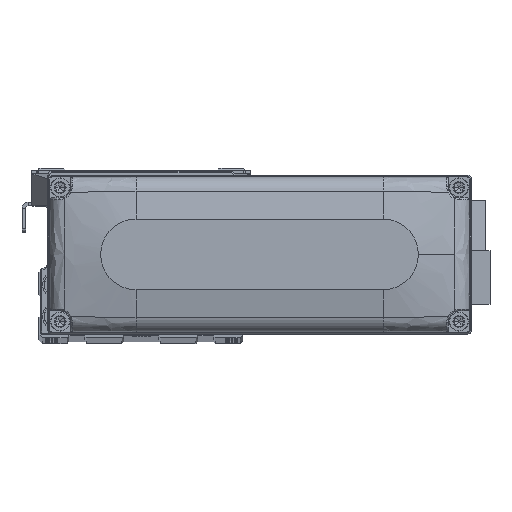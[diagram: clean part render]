
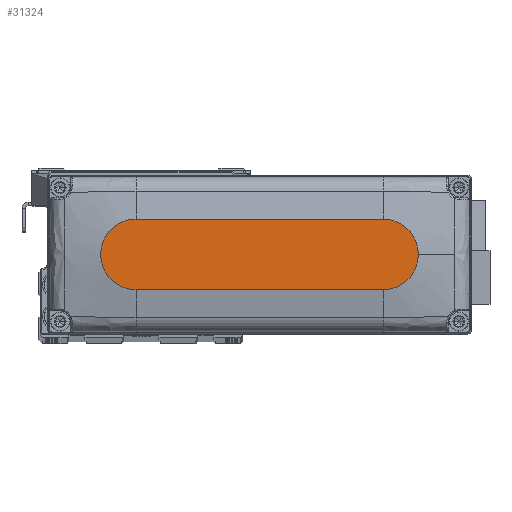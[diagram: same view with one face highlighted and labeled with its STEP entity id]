
A CAD part, top view. The second image highlights one B-rep face of the part: STEP entity #31324.
In plain terms, the highlighted planar face has unit normal (0, 0, 1).
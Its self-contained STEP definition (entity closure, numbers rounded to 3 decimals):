
#576 = DIRECTION ( 'NONE',  ( 1., 0., 0. ) ) ;
#808 = DIRECTION ( 'NONE',  ( 0., 0., 1. ) ) ;
#2228 = CARTESIAN_POINT ( 'NONE',  ( 35., -10., 28. ) ) ;
#2656 = AXIS2_PLACEMENT_3D ( 'NONE', #32280, #808, #14835 ) ;
#2839 = DIRECTION ( 'NONE',  ( 1., 0., 0. ) ) ;
#4175 = DIRECTION ( 'NONE',  ( 0., 0., 1. ) ) ;
#5018 = DIRECTION ( 'NONE',  ( -1., 0., 0. ) ) ;
#6294 = CARTESIAN_POINT ( 'NONE',  ( -35., -10., 28. ) ) ;
#7308 = ORIENTED_EDGE ( 'NONE', *, *, #31297, .T. ) ;
#7636 = FACE_OUTER_BOUND ( 'NONE', #19931, .T. ) ;
#11565 = EDGE_CURVE ( 'NONE', #24923, #35050, #42243, .T. ) ;
#13674 = DIRECTION ( 'NONE',  ( 0., 0., 1. ) ) ;
#14835 = DIRECTION ( 'NONE',  ( 1., 0., 0. ) ) ;
#16010 = EDGE_CURVE ( 'NONE', #41650, #41886, #37751, .T. ) ;
#17979 = AXIS2_PLACEMENT_3D ( 'NONE', #20308, #34304, #2839 ) ;
#18034 = LINE ( 'NONE', #32051, #39466 ) ;
#18193 = DIRECTION ( 'NONE',  ( 1., 0., 0. ) ) ;
#19227 = EDGE_CURVE ( 'NONE', #41886, #24923, #18034, .T. ) ;
#19645 = CARTESIAN_POINT ( 'NONE',  ( 35., 10., 28. ) ) ;
#19931 = EDGE_LOOP ( 'NONE', ( #26310, #39608, #42000, #25686, #7308 ) ) ;
#20308 = CARTESIAN_POINT ( 'NONE',  ( -35., 0., 28. ) ) ;
#21653 = PLANE ( 'NONE',  #25588 ) ;
#21918 = AXIS2_PLACEMENT_3D ( 'NONE', #45094, #13674, #27691 ) ;
#22494 = LINE ( 'NONE', #36485, #28963 ) ;
#24923 = VERTEX_POINT ( 'NONE', #2228 ) ;
#25588 = AXIS2_PLACEMENT_3D ( 'NONE', #35641, #4175, #18193 ) ;
#25686 = ORIENTED_EDGE ( 'NONE', *, *, #11565, .T. ) ;
#26119 = EDGE_CURVE ( 'NONE', #44265, #41650, #22494, .T. ) ;
#26310 = ORIENTED_EDGE ( 'NONE', *, *, #26119, .T. ) ;
#27691 = DIRECTION ( 'NONE',  ( 1., 0., 0. ) ) ;
#28963 = VECTOR ( 'NONE', #5018, 1000. ) ;
#30458 = CARTESIAN_POINT ( 'NONE',  ( 45., 0., 28. ) ) ;
#31297 = EDGE_CURVE ( 'NONE', #35050, #44265, #41663, .T. ) ;
#31324 = ADVANCED_FACE ( 'NONE', ( #7636 ), #21653, .T. ) ;
#32051 = CARTESIAN_POINT ( 'NONE',  ( -35., -10., 28. ) ) ;
#32280 = CARTESIAN_POINT ( 'NONE',  ( 35., 0., 28. ) ) ;
#34304 = DIRECTION ( 'NONE',  ( 0., 0., 1. ) ) ;
#35050 = VERTEX_POINT ( 'NONE', #30458 ) ;
#35641 = CARTESIAN_POINT ( 'NONE',  ( 0., 0., 28. ) ) ;
#36485 = CARTESIAN_POINT ( 'NONE',  ( -35., 10., 28. ) ) ;
#37751 = CIRCLE ( 'NONE', #17979, 10. ) ;
#39466 = VECTOR ( 'NONE', #576, 1000. ) ;
#39608 = ORIENTED_EDGE ( 'NONE', *, *, #16010, .T. ) ;
#41650 = VERTEX_POINT ( 'NONE', #42820 ) ;
#41663 = CIRCLE ( 'NONE', #21918, 10. ) ;
#41886 = VERTEX_POINT ( 'NONE', #6294 ) ;
#42000 = ORIENTED_EDGE ( 'NONE', *, *, #19227, .T. ) ;
#42243 = CIRCLE ( 'NONE', #2656, 10. ) ;
#42820 = CARTESIAN_POINT ( 'NONE',  ( -35., 10., 28. ) ) ;
#44265 = VERTEX_POINT ( 'NONE', #19645 ) ;
#45094 = CARTESIAN_POINT ( 'NONE',  ( 35., 0., 28. ) ) ;
